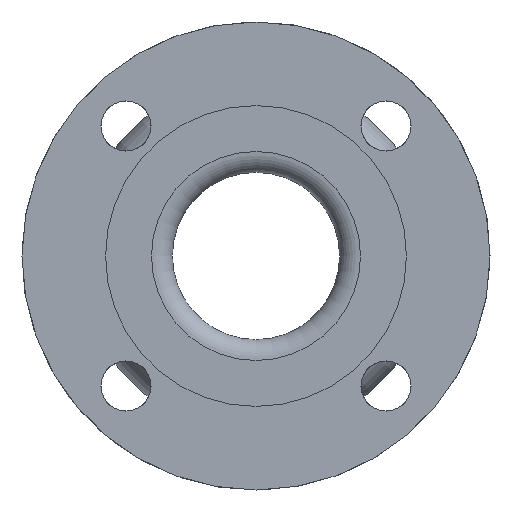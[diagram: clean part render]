
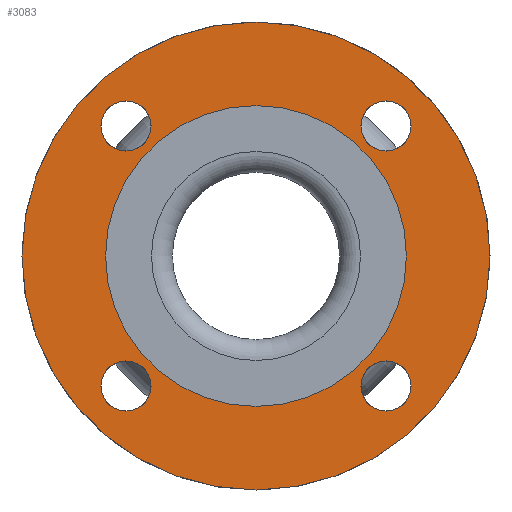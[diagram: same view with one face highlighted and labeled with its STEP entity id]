
A CAD part, left-side view. The second image highlights one B-rep face of the part: STEP entity #3083.
In plain terms, the highlighted planar face has unit normal (-1, 0, 0).
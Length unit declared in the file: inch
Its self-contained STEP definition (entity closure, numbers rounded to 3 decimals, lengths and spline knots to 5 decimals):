
#360=PLANE('',#3289);
#422=FACE_BOUND('',#719,.T.);
#423=FACE_BOUND('',#720,.T.);
#424=FACE_BOUND('',#721,.T.);
#425=FACE_BOUND('',#722,.T.);
#426=FACE_BOUND('',#723,.T.);
#526=FACE_OUTER_BOUND('',#718,.T.);
#718=EDGE_LOOP('',(#1970));
#719=EDGE_LOOP('',(#1971));
#720=EDGE_LOOP('',(#1972));
#721=EDGE_LOOP('',(#1973));
#722=EDGE_LOOP('',(#1974));
#723=EDGE_LOOP('',(#1975));
#991=CIRCLE('',#3267,0.375);
#993=CIRCLE('',#3270,0.375);
#995=CIRCLE('',#3273,0.375);
#997=CIRCLE('',#3276,0.375);
#1006=CIRCLE('',#3290,3.5);
#1007=CIRCLE('',#3291,2.25);
#1243=VERTEX_POINT('',#4739);
#1245=VERTEX_POINT('',#4744);
#1247=VERTEX_POINT('',#4749);
#1249=VERTEX_POINT('',#4754);
#1258=VERTEX_POINT('',#4777);
#1259=VERTEX_POINT('',#4779);
#1543=EDGE_CURVE('',#1243,#1243,#991,.T.);
#1545=EDGE_CURVE('',#1245,#1245,#993,.T.);
#1547=EDGE_CURVE('',#1247,#1247,#995,.T.);
#1549=EDGE_CURVE('',#1249,#1249,#997,.T.);
#1558=EDGE_CURVE('',#1258,#1258,#1006,.T.);
#1559=EDGE_CURVE('',#1259,#1259,#1007,.T.);
#1970=ORIENTED_EDGE('',*,*,#1558,.F.);
#1971=ORIENTED_EDGE('',*,*,#1543,.T.);
#1972=ORIENTED_EDGE('',*,*,#1545,.T.);
#1973=ORIENTED_EDGE('',*,*,#1547,.T.);
#1974=ORIENTED_EDGE('',*,*,#1549,.T.);
#1975=ORIENTED_EDGE('',*,*,#1559,.T.);
#3083=ADVANCED_FACE('',(#526,#422,#423,#424,#425,#426),#360,.T.);
#3267=AXIS2_PLACEMENT_3D('',#4740,#3707,#3708);
#3270=AXIS2_PLACEMENT_3D('',#4745,#3713,#3714);
#3273=AXIS2_PLACEMENT_3D('',#4750,#3719,#3720);
#3276=AXIS2_PLACEMENT_3D('',#4755,#3725,#3726);
#3289=AXIS2_PLACEMENT_3D('',#4776,#3751,#3752);
#3290=AXIS2_PLACEMENT_3D('',#4778,#3753,#3754);
#3291=AXIS2_PLACEMENT_3D('',#4780,#3755,#3756);
#3707=DIRECTION('center_axis',(1.,0.,0.));
#3708=DIRECTION('ref_axis',(0.,-1.,0.));
#3713=DIRECTION('center_axis',(1.,0.,0.));
#3714=DIRECTION('ref_axis',(0.,0.,1.));
#3719=DIRECTION('center_axis',(1.,0.,0.));
#3720=DIRECTION('ref_axis',(0.,1.,0.));
#3725=DIRECTION('center_axis',(1.,0.,0.));
#3726=DIRECTION('ref_axis',(0.,0.,-1.));
#3751=DIRECTION('center_axis',(-1.,0.,0.));
#3752=DIRECTION('ref_axis',(0.,0.,1.));
#3753=DIRECTION('center_axis',(1.,0.,0.));
#3754=DIRECTION('ref_axis',(0.,0.,-1.));
#3755=DIRECTION('center_axis',(1.,0.,0.));
#3756=DIRECTION('ref_axis',(0.,0.,-1.));
#4739=CARTESIAN_POINT('',(-5.,-1.56954,-1.94454));
#4740=CARTESIAN_POINT('Origin',(-5.,-1.94454,-1.94454));
#4744=CARTESIAN_POINT('',(-5.,-1.94454,1.56954));
#4745=CARTESIAN_POINT('Origin',(-5.,-1.94454,1.94454));
#4749=CARTESIAN_POINT('',(-5.,1.56954,1.94454));
#4750=CARTESIAN_POINT('Origin',(-5.,1.94454,1.94454));
#4754=CARTESIAN_POINT('',(-5.,1.94454,-1.56954));
#4755=CARTESIAN_POINT('Origin',(-5.,1.94454,-1.94454));
#4776=CARTESIAN_POINT('Origin',(-5.,3.5,0.));
#4777=CARTESIAN_POINT('',(-5.,3.5,0.));
#4778=CARTESIAN_POINT('Origin',(-5.,0.,0.));
#4779=CARTESIAN_POINT('',(-5.,2.25,0.));
#4780=CARTESIAN_POINT('Origin',(-5.,0.,0.));
